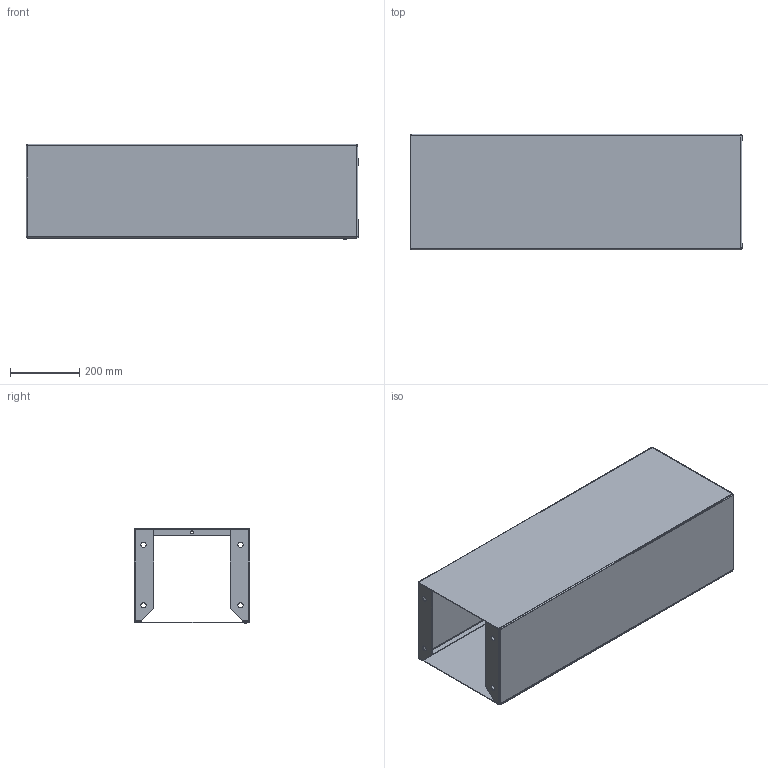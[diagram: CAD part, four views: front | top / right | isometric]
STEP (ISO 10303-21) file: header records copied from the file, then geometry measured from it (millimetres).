
FILE_DESCRIPTION(/* description */ (''),/* implementation_level */ '2;1');
FILE_NAME(/* name */ 'G:\PUBLIC\MKTG\Laura\WEBSITE PUMP MODEL STP\133464-02_CABINET_BASE.stp',/* time_stamp */ '2017-07-11T11:03:29-05:00',/* author */ ('gdonbak'),/* organization */ (''),/* preprocessor_version */ 'ST-DEVELOPER v16.5',/* originating_system */ 'Autodesk Inventor 2017',/* authorisation */ '');
FILE_SCHEMA (('AUTOMOTIVE_DESIGN { 1 0 10303 214 3 1 1 }'));
Length unit declared in the file: inch
Products named in the file (1): 133464-02_Shrinkwrap_1
Bounding box: 957.58 x 334.01 x 274.58 mm (x, y, z)
Surface area: 2438921 mm2 (no closed solid volume)
Topology: 0 solids, 5 shells, 230 faces, 585 edges, 366 vertices
Faces by surface type: plane 130, cylinder 85, cone 10, torus 4, sphere 1
Full cylindrical faces by diameter (mm): 4.166 x1, 5.08 x2, 6.35 x16, 8.712 x5, 9.754 x1, 15.062 x4
Entity records: 7264 total; most frequent: CARTESIAN_POINT 1365, DIRECTION 1188, ORIENTED_EDGE 1102, EDGE_CURVE 551, AXIS2_PLACEMENT_3D 430, VERTEX_POINT 363, LINE 328, VECTOR 328
